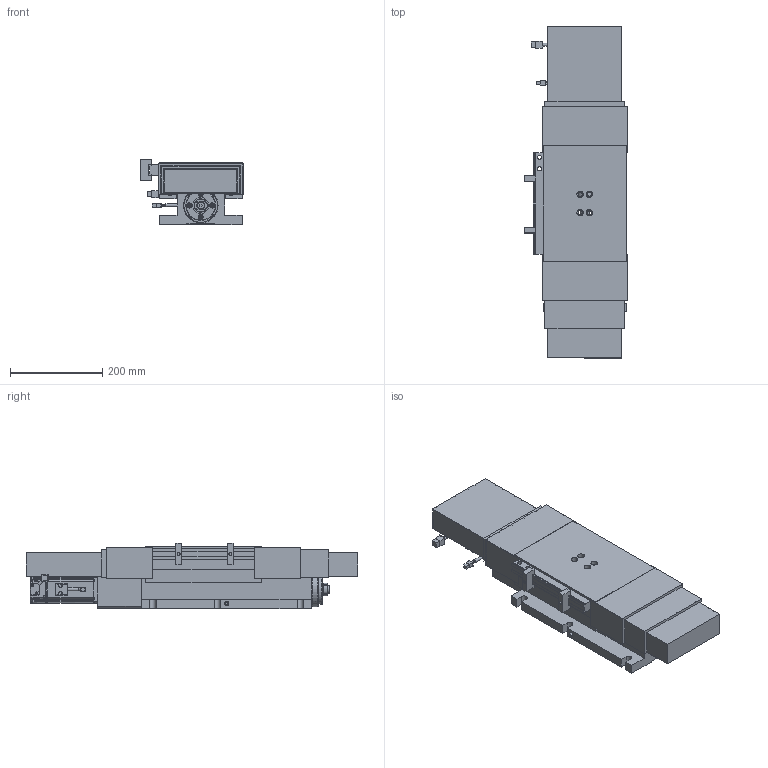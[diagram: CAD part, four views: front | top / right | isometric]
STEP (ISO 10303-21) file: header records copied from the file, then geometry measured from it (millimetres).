
FILE_DESCRIPTION( ( 'Unknown' ), '1' );
FILE_NAME( '//Hanndisk/共用文件/設計/HAN/BS-180-250-370.stp', 'Unknown', ( 'Unknown' ), ( 'Unknown' ), 'PSStep 17.0.49', 'Unknown', ' ' );
FILE_SCHEMA( ( 'AUTOMOTIVE_DESIGN { 1 0 10303 214 1 1 1 1 }' ) );
Length unit declared in the file: millimetre
Products named in the file (26): BS180018; RH20005-1(PMI); BS180018-1; Assem1; RH15008; 刮刷板(A); 刮刷板(B); 刮刷板(B)-oa0; 刮刷板(B)-oa1; RH20014; YSR-M17x1; HA160016; RH20013; HA160014; HA160014-oa2; BS180002; BS180004; BS180004A; BS180014; 護蓋180; CX0604RH; BS180護蓋; BS180006
Assembly tree (25 placements, depth 3):
  Assem1
    RH15008
    刮刷板(A)
    刮刷板(B)
    刮刷板(B)-oa0
    刮刷板(B)-oa1
    RH20014
    YSR-M17x1
    HA160016
    RH20013
    HA160014
    HA160014-oa2
    BS180002
    BS180004
    BS180004A
    BS180014
    護蓋180
    CX0604RH
    CX0604RH
    CX0604RH
    CX0604RH
    BS180護蓋
    BS180006
    BS180018
      RH20005-1(PMI)
      BS180018-1
Bounding box: 223 x 720 x 142.46 mm (x, y, z)
Volume: 6543473.9 mm3; surface area: 1171269.7 mm2
Topology: 24 solids, 24 shells, 1241 faces, 3171 edges, 2033 vertices
Faces by surface type: plane 654, cylinder 420, cone 115, bspline 27, torus 15, sphere 8, extrusion 2
Full cylindrical faces by diameter (mm): 1.5 x4, 3 x3, 3.3 x2, 3.5 x6, 4 x1, 4.134 x36, 4.917 x36, 5.5 x6, 6 x20, 6.5 x6, 6.6 x4, 6.647 x22, 8.5 x2, 9 x16, 9.058 x2, 9.5 x4, 11 x8, 14 x17, 14.3 x1, 15 x1, 15.917 x1, 17 x3, 17.02 x2, 18 x1, 20 x1, 23 x1, 24 x1, 25 x2, 29 x1, 33 x2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
Entity records: 54835 total; most frequent: CARTESIAN_POINT 8642, DIRECTION 5821, ORIENTED_EDGE 5428, PRESENTATION_STYLE_ASSIGNMENT 2827, COLOUR_RGB 2827, EDGE_CURVE 2714, STYLED_ITEM 2362, AXIS2_PLACEMENT_3D 2104
